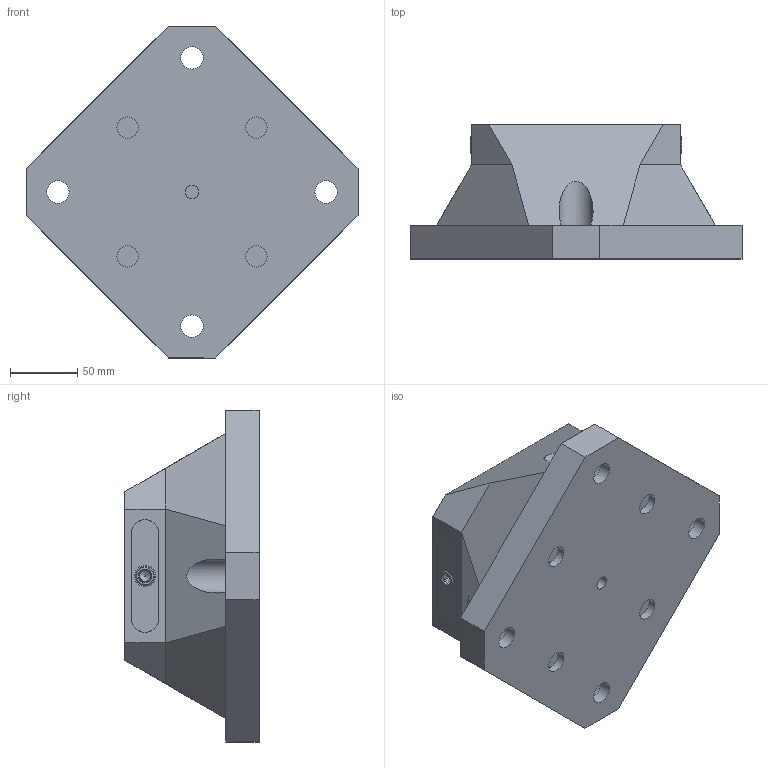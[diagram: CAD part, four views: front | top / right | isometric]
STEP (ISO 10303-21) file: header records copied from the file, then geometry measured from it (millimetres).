
FILE_DESCRIPTION (( 'STEP AP214' ), '1' );
FILE_NAME ('RL96A-488_WEBSITE.step', '2025-08-11T11:14:15', ( '' ), ( '' ), 'SwSTEP 2.0', 'SolidWorks 2025', '' );
FILE_SCHEMA (( 'AUTOMOTIVE_DESIGN' ));
Length unit declared in the file: millimetre
Products named in the file (11): D_RL96-2L_WEBSITE; 9452K121-Truck-O-Ring_WEBSITE; D_RL96-3_WEBSITE; 9452K183-Base-O-Ring_WEBSITE; D_RL96-ASSY_WEBSITE; D_RL96-2R_WEBSITE; 9750K730_PLASTIC ROUND PLUG_WEBSITE_9750K73; D_RL96-1488A_WEBSITE; RL96A-488_WEBSITE; D_HW27X20.DB_WEBSITE; D_SB54_WEBSITE_FINISHED PART
Assembly tree (17 placements, depth 3):
  9750K730_PLASTIC ROUND PLUG_WEBSITE_9750K73
  RL96A-488_WEBSITE
    D_RL96-1488A_WEBSITE
    D_RL96-ASSY_WEBSITE
      D_RL96-2L_WEBSITE
      D_RL96-2R_WEBSITE
      D_RL96-3_WEBSITE
      D_HW27X20.DB_WEBSITE  x4
      D_SB54_WEBSITE_FINISHED PART  x2
    9452K183-Base-O-Ring_WEBSITE  x4
    9452K121-Truck-O-Ring_WEBSITE  x2
Bounding box: 247.49 x 100 x 247.49 mm (x, y, z)
Volume: 2777094.4 mm3; surface area: 199253.5 mm2
Topology: 18 solids, 18 shells, 312 faces, 693 edges, 433 vertices
Faces by surface type: plane 195, cylinder 91, cone 14, torus 10, bspline 2
Full cylindrical faces by diameter (mm): 0.127 x2, 2.5 x2, 3.3 x2, 4 x2, 4.7 x2, 5 x2, 5.182 x2, 8.204 x2, 9 x2, 9.525 x2, 10.025 x1, 10.795 x1, 11.938 x4, 12.573 x4, 14 x2, 15.748 x2, 16.02 x4, 16.667 x4, 19.05 x2, 19.101 x4, 20.015 x5, 20.035 x4, 25.4 x4, 26.982 x4, 26.993 x4, 27.051 x4
Entity records: 9348 total; most frequent: CARTESIAN_POINT 3304, DIRECTION 1212, ORIENTED_EDGE 994, EDGE_CURVE 497, AXIS2_PLACEMENT_3D 477, EDGE_LOOP 392, VERTEX_POINT 351, FACE_OUTER_BOUND 326
